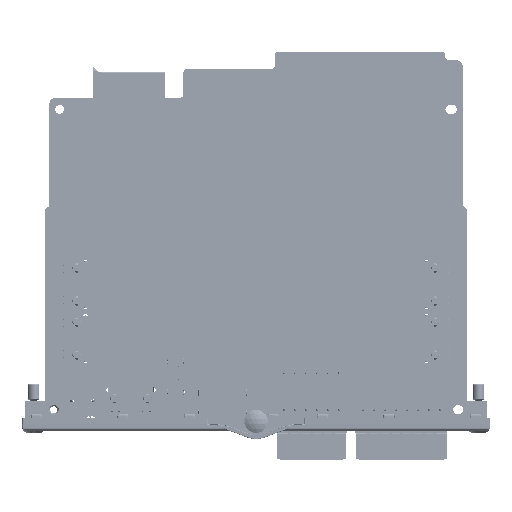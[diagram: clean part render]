
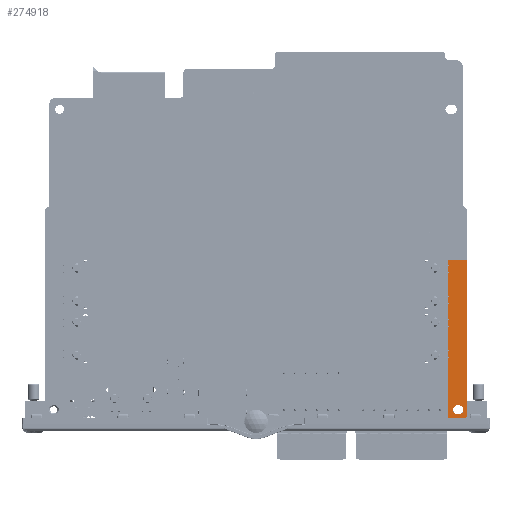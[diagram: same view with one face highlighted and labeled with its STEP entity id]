
A CAD part, front view. The second image highlights one B-rep face of the part: STEP entity #274918.
In plain terms, the highlighted planar face has unit normal (0, -1, 0).
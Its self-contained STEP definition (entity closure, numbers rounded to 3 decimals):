
#3825=FACE_BOUND('',#34431,.T.);
#19481=FACE_OUTER_BOUND('',#34430,.T.);
#34430=EDGE_LOOP('',(#231182,#231183,#231184,#231185,#231186,#231187,#231188,
#231189,#231190,#231191,#231192,#231193,#231194,#231195,#231196,#231197,
#231198,#231199,#231200,#231201,#231202));
#34431=EDGE_LOOP('',(#231203,#231204,#231205,#231206));
#42158=CIRCLE('',#295097,0.5);
#42159=CIRCLE('',#295101,0.5);
#42161=CIRCLE('',#295116,0.5);
#42162=CIRCLE('',#295118,0.5);
#42164=CIRCLE('',#295127,1.);
#42165=CIRCLE('',#295128,0.5);
#42166=CIRCLE('',#295129,0.5);
#42167=CIRCLE('',#295130,0.5);
#42168=CIRCLE('',#295131,0.5);
#42169=CIRCLE('',#295132,1.55);
#42170=CIRCLE('',#295133,1.55);
#52821=LINE('',#406880,#81985);
#53887=LINE('',#418740,#83051);
#69245=LINE('',#465772,#98409);
#69246=LINE('',#465774,#98410);
#69247=LINE('',#465775,#98411);
#69248=LINE('',#465776,#98412);
#69249=LINE('',#465777,#98413);
#69250=LINE('',#465778,#98414);
#69251=LINE('',#465780,#98415);
#69252=LINE('',#465784,#98416);
#69253=LINE('',#465788,#98417);
#69254=LINE('',#465792,#98418);
#69255=LINE('',#465796,#98419);
#69256=LINE('',#465800,#98420);
#81985=VECTOR('',#318181,10.);
#83051=VECTOR('',#322437,10.);
#98409=VECTOR('',#361087,10.);
#98410=VECTOR('',#361088,10.);
#98411=VECTOR('',#361089,10.);
#98412=VECTOR('',#361090,10.);
#98413=VECTOR('',#361091,10.);
#98414=VECTOR('',#361092,10.);
#98415=VECTOR('',#361093,10.);
#98416=VECTOR('',#361096,10.);
#98417=VECTOR('',#361099,10.);
#98418=VECTOR('',#361102,10.);
#98419=VECTOR('',#361105,10.);
#98420=VECTOR('',#361108,10.);
#109321=VERTEX_POINT('',#406877);
#109322=VERTEX_POINT('',#406879);
#110526=VERTEX_POINT('',#418739);
#123155=VERTEX_POINT('',#465692);
#123156=VERTEX_POINT('',#465694);
#123157=VERTEX_POINT('',#465703);
#123158=VERTEX_POINT('',#465705);
#123161=VERTEX_POINT('',#465739);
#123162=VERTEX_POINT('',#465741);
#123163=VERTEX_POINT('',#465746);
#123164=VERTEX_POINT('',#465748);
#123167=VERTEX_POINT('',#465769);
#123168=VERTEX_POINT('',#465771);
#123169=VERTEX_POINT('',#465773);
#123170=VERTEX_POINT('',#465779);
#123171=VERTEX_POINT('',#465781);
#123172=VERTEX_POINT('',#465783);
#123173=VERTEX_POINT('',#465785);
#123174=VERTEX_POINT('',#465787);
#123175=VERTEX_POINT('',#465789);
#123176=VERTEX_POINT('',#465791);
#123177=VERTEX_POINT('',#465794);
#123178=VERTEX_POINT('',#465795);
#123179=VERTEX_POINT('',#465797);
#123180=VERTEX_POINT('',#465799);
#137344=EDGE_CURVE('',#109322,#109321,#52821,.T.);
#139511=EDGE_CURVE('',#109322,#110526,#53887,.T.);
#159598=EDGE_CURVE('',#123156,#123155,#42158,.T.);
#159604=EDGE_CURVE('',#123158,#123157,#42159,.T.);
#159623=EDGE_CURVE('',#123162,#123161,#42161,.T.);
#159627=EDGE_CURVE('',#123164,#123163,#42162,.T.);
#159638=EDGE_CURVE('',#123167,#109321,#42164,.T.);
#159639=EDGE_CURVE('',#123168,#123167,#69245,.T.);
#159640=EDGE_CURVE('',#123168,#123169,#69246,.T.);
#159641=EDGE_CURVE('',#123156,#123169,#69247,.T.);
#159642=EDGE_CURVE('',#123162,#123155,#69248,.T.);
#159643=EDGE_CURVE('',#123164,#123161,#69249,.T.);
#159644=EDGE_CURVE('',#123158,#123163,#69250,.T.);
#159645=EDGE_CURVE('',#123170,#123157,#69251,.T.);
#159646=EDGE_CURVE('',#123170,#123171,#42165,.T.);
#159647=EDGE_CURVE('',#123172,#123171,#69252,.T.);
#159648=EDGE_CURVE('',#123172,#123173,#42166,.T.);
#159649=EDGE_CURVE('',#123174,#123173,#69253,.T.);
#159650=EDGE_CURVE('',#123174,#123175,#42167,.T.);
#159651=EDGE_CURVE('',#123176,#123175,#69254,.T.);
#159652=EDGE_CURVE('',#123176,#110526,#42168,.T.);
#159653=EDGE_CURVE('',#123177,#123178,#69255,.T.);
#159654=EDGE_CURVE('',#123179,#123177,#42169,.T.);
#159655=EDGE_CURVE('',#123180,#123179,#69256,.T.);
#159656=EDGE_CURVE('',#123178,#123180,#42170,.T.);
#231182=ORIENTED_EDGE('',*,*,#137344,.T.);
#231183=ORIENTED_EDGE('',*,*,#159638,.F.);
#231184=ORIENTED_EDGE('',*,*,#159639,.F.);
#231185=ORIENTED_EDGE('',*,*,#159640,.T.);
#231186=ORIENTED_EDGE('',*,*,#159641,.F.);
#231187=ORIENTED_EDGE('',*,*,#159598,.T.);
#231188=ORIENTED_EDGE('',*,*,#159642,.F.);
#231189=ORIENTED_EDGE('',*,*,#159623,.T.);
#231190=ORIENTED_EDGE('',*,*,#159643,.F.);
#231191=ORIENTED_EDGE('',*,*,#159627,.T.);
#231192=ORIENTED_EDGE('',*,*,#159644,.F.);
#231193=ORIENTED_EDGE('',*,*,#159604,.T.);
#231194=ORIENTED_EDGE('',*,*,#159645,.F.);
#231195=ORIENTED_EDGE('',*,*,#159646,.T.);
#231196=ORIENTED_EDGE('',*,*,#159647,.F.);
#231197=ORIENTED_EDGE('',*,*,#159648,.T.);
#231198=ORIENTED_EDGE('',*,*,#159649,.F.);
#231199=ORIENTED_EDGE('',*,*,#159650,.T.);
#231200=ORIENTED_EDGE('',*,*,#159651,.F.);
#231201=ORIENTED_EDGE('',*,*,#159652,.T.);
#231202=ORIENTED_EDGE('',*,*,#139511,.F.);
#231203=ORIENTED_EDGE('',*,*,#159653,.F.);
#231204=ORIENTED_EDGE('',*,*,#159654,.F.);
#231205=ORIENTED_EDGE('',*,*,#159655,.F.);
#231206=ORIENTED_EDGE('',*,*,#159656,.F.);
#247794=PLANE('',#295126);
#274918=ADVANCED_FACE('',(#19481,#3825),#247794,.F.);
#295097=AXIS2_PLACEMENT_3D('',#465695,#360991,#360992);
#295101=AXIS2_PLACEMENT_3D('',#465706,#361004,#361005);
#295116=AXIS2_PLACEMENT_3D('',#465742,#361051,#361052);
#295118=AXIS2_PLACEMENT_3D('',#465749,#361058,#361059);
#295126=AXIS2_PLACEMENT_3D('',#465768,#361083,#361084);
#295127=AXIS2_PLACEMENT_3D('',#465770,#361085,#361086);
#295128=AXIS2_PLACEMENT_3D('',#465782,#361094,#361095);
#295129=AXIS2_PLACEMENT_3D('',#465786,#361097,#361098);
#295130=AXIS2_PLACEMENT_3D('',#465790,#361100,#361101);
#295131=AXIS2_PLACEMENT_3D('',#465793,#361103,#361104);
#295132=AXIS2_PLACEMENT_3D('',#465798,#361106,#361107);
#295133=AXIS2_PLACEMENT_3D('',#465801,#361109,#361110);
#318181=DIRECTION('',(1.,0.,0.));
#322437=DIRECTION('',(0.,0.,1.));
#360991=DIRECTION('center_axis',(0.,1.,0.));
#360992=DIRECTION('ref_axis',(1.,0.,0.));
#361004=DIRECTION('center_axis',(0.,1.,0.));
#361005=DIRECTION('ref_axis',(1.,0.,0.));
#361051=DIRECTION('center_axis',(0.,1.,0.));
#361052=DIRECTION('ref_axis',(1.,0.,0.));
#361058=DIRECTION('center_axis',(0.,1.,0.));
#361059=DIRECTION('ref_axis',(1.,0.,0.));
#361083=DIRECTION('center_axis',(0.,1.,0.));
#361084=DIRECTION('ref_axis',(0.,0.,1.));
#361085=DIRECTION('center_axis',(0.,1.,0.));
#361086=DIRECTION('ref_axis',(0.707,0.,-0.707));
#361087=DIRECTION('',(0.,0.,-1.));
#361088=DIRECTION('',(-1.,0.,0.));
#361089=DIRECTION('',(0.,0.,1.));
#361090=DIRECTION('',(0.,0.,1.));
#361091=DIRECTION('',(0.,0.,1.));
#361092=DIRECTION('',(0.,0.,1.));
#361093=DIRECTION('',(0.,0.,1.));
#361094=DIRECTION('center_axis',(0.,1.,0.));
#361095=DIRECTION('ref_axis',(1.,0.,0.));
#361096=DIRECTION('',(0.,0.,1.));
#361097=DIRECTION('center_axis',(0.,1.,0.));
#361098=DIRECTION('ref_axis',(1.,0.,0.));
#361099=DIRECTION('',(0.,0.,1.));
#361100=DIRECTION('center_axis',(0.,1.,0.));
#361101=DIRECTION('ref_axis',(1.,0.,0.));
#361102=DIRECTION('',(0.,0.,1.));
#361103=DIRECTION('center_axis',(0.,1.,0.));
#361104=DIRECTION('ref_axis',(1.,0.,0.));
#361105=DIRECTION('',(-1.,0.,0.));
#361106=DIRECTION('center_axis',(0.,-1.,0.));
#361107=DIRECTION('ref_axis',(0.,0.,-1.));
#361108=DIRECTION('',(1.,0.,0.));
#361109=DIRECTION('center_axis',(0.,-1.,0.));
#361110=DIRECTION('ref_axis',(0.,0.,1.));
#406877=CARTESIAN_POINT('',(72.089,-1.55,0.004));
#406879=CARTESIAN_POINT('',(66.5,-1.55,0.004));
#406880=CARTESIAN_POINT('',(34.708,-1.55,0.004));
#418739=CARTESIAN_POINT('',(66.5,-1.55,20.638));
#418740=CARTESIAN_POINT('',(66.5,-1.55,0.));
#465692=CARTESIAN_POINT('',(66.5,-1.55,52.658));
#465694=CARTESIAN_POINT('',(66.5,-1.55,53.392));
#465695=CARTESIAN_POINT('Origin',(66.16,-1.55,53.025));
#465703=CARTESIAN_POINT('',(66.5,-1.55,39.398));
#465705=CARTESIAN_POINT('',(66.5,-1.55,40.132));
#465706=CARTESIAN_POINT('Origin',(66.16,-1.55,39.765));
#465739=CARTESIAN_POINT('',(66.5,-1.55,50.118));
#465741=CARTESIAN_POINT('',(66.5,-1.55,50.852));
#465742=CARTESIAN_POINT('Origin',(66.16,-1.55,50.485));
#465746=CARTESIAN_POINT('',(66.5,-1.55,41.938));
#465748=CARTESIAN_POINT('',(66.5,-1.55,42.672));
#465749=CARTESIAN_POINT('Origin',(66.16,-1.55,42.305));
#465768=CARTESIAN_POINT('Origin',(69.418,-1.55,61.431));
#465769=CARTESIAN_POINT('',(73.,-1.55,1.));
#465770=CARTESIAN_POINT('Origin',(72.,-1.55,1.));
#465771=CARTESIAN_POINT('',(73.,-1.55,55.));
#465772=CARTESIAN_POINT('',(73.,-1.55,30.716));
#465773=CARTESIAN_POINT('',(66.5,-1.55,55.));
#465774=CARTESIAN_POINT('',(67.959,-1.55,55.));
#465775=CARTESIAN_POINT('',(66.5,-1.55,0.));
#465776=CARTESIAN_POINT('',(66.5,-1.55,0.));
#465777=CARTESIAN_POINT('',(66.5,-1.55,0.));
#465778=CARTESIAN_POINT('',(66.5,-1.55,0.));
#465779=CARTESIAN_POINT('',(66.5,-1.55,34.632));
#465780=CARTESIAN_POINT('',(66.5,-1.55,0.));
#465781=CARTESIAN_POINT('',(66.5,-1.55,33.898));
#465782=CARTESIAN_POINT('Origin',(66.16,-1.55,34.265));
#465783=CARTESIAN_POINT('',(66.5,-1.55,32.092));
#465784=CARTESIAN_POINT('',(66.5,-1.55,0.));
#465785=CARTESIAN_POINT('',(66.5,-1.55,31.358));
#465786=CARTESIAN_POINT('Origin',(66.16,-1.55,31.725));
#465787=CARTESIAN_POINT('',(66.5,-1.55,23.912));
#465788=CARTESIAN_POINT('',(66.5,-1.55,0.));
#465789=CARTESIAN_POINT('',(66.5,-1.55,23.178));
#465790=CARTESIAN_POINT('Origin',(66.16,-1.55,23.545));
#465791=CARTESIAN_POINT('',(66.5,-1.55,21.372));
#465792=CARTESIAN_POINT('',(66.5,-1.55,0.));
#465793=CARTESIAN_POINT('Origin',(66.16,-1.55,21.005));
#465794=CARTESIAN_POINT('',(70.25,-1.55,4.55));
#465795=CARTESIAN_POINT('',(69.75,-1.55,4.55));
#465796=CARTESIAN_POINT('',(69.834,-1.55,4.55));
#465797=CARTESIAN_POINT('',(70.25,-1.55,1.45));
#465798=CARTESIAN_POINT('Origin',(70.25,-1.55,3.));
#465799=CARTESIAN_POINT('',(69.75,-1.55,1.45));
#465800=CARTESIAN_POINT('',(69.584,-1.55,1.45));
#465801=CARTESIAN_POINT('Origin',(69.75,-1.55,3.));
